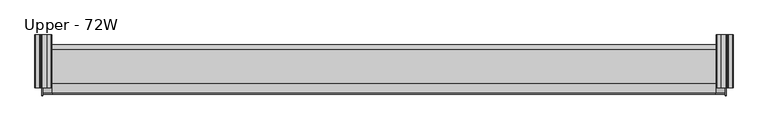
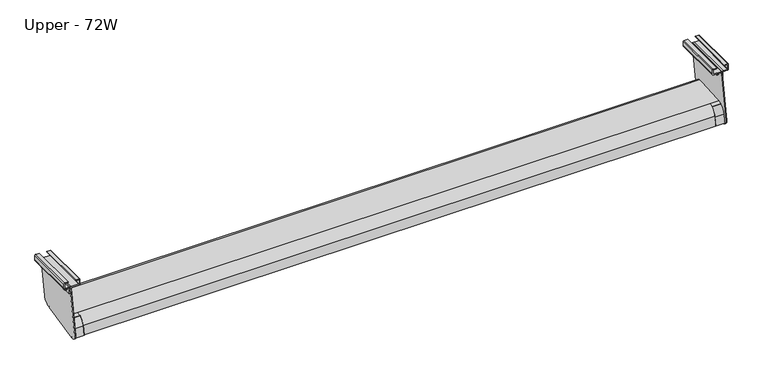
"""IFC4 building model written with IfcOpenShell, lengths in millimetres: furniture geometry, Steelcase Turnstone - Bivi - Accessories - Footshelf : Upper - 72W."""

from ifc_helpers import new_model, si_unit, point, frame, frame_2d, origin, place, context, project, spatial, polyline, circle_curve, trimmed, segment, composite_curve, outline, extrude, source, transform, mapped, element, save
from ifc_brep_helpers import plane_surface, cylinder_surface, revolved_surface, advanced_brep


def upper_72w_3a9c6955(model_context):
    return source(origin(), model_context, "Body", "SolidModel", [
        advanced_brep(
        [(1803.3970434, -330.5631686, 405.2178221), (1803.3970434, -335.2717608, 378.5140687), (1803.3970434, -331.5529865, 377.9250727), (1803.3970434, -327.344341, 401.7934874), (1803.3970434, -313.6889042, 420.7007017), (1803.3970434, -315.8474061, 424.9938126), (25.4029566, -327.344341, 401.7934874), (25.4029566, -331.5529865, 377.9250727), (25.4029566, -335.2717608, 378.5140687), (25.4029566, -330.5631686, 405.2178221), (25.4029566, -315.8474061, 424.9938126), (25.4029566, -313.6889042, 420.7007017), (1828.8, -205.119935, 404.6518997), (1828.8, -209.1468112, 405.0751414), (0.0, -209.1468112, 405.0751414), (0.0, -205.119935, 404.6518997), (25.4029566, -203.2275084, 422.6571359), (1803.3970434, -203.2275084, 422.6571359), (1828.8, -203.2275084, 422.6571359), (0.0, -203.2275084, 422.6571359), (25.4029566, -213.9683536, 433.8305657), (1803.3970434, -213.9683536, 433.8305657), (0.0, -213.9683536, 433.8305657), (0.0, -305.2969526, 427.8633459), (25.4029566, -305.2969526, 427.8633459), (1803.3970434, -305.2969526, 427.8633459), (1828.8, -305.2969526, 427.8633459), (1828.8, -213.9683536, 433.8305657), (25.4029566, -302.7385546, 423.8470835), (1803.3970434, -302.7385546, 423.8470835), (0.0, -302.7385546, 423.8470835), (0.0, -215.2869038, 429.5609916), (25.4029566, -215.2869038, 429.5609916), (1803.3970434, -215.2869038, 429.5609916), (1828.8, -215.2869038, 429.5609916), (1828.8, -302.7385546, 423.8470835), (25.4029566, -207.4320707, 421.3898072), (1803.3970434, -207.4320707, 421.3898072), (0.0, -207.4320707, 421.3898072), (1828.8, -207.4320707, 421.3898072), (1828.8, -315.8474061, 424.9938126), (1828.8, -313.6889042, 420.7007017), (0.0, -313.6889042, 420.7007017), (0.0, -315.8474061, 424.9938126)],
        [
            (0, 1),
            (1, 2),
            (2, 3),
            (3, 4, circle_curve(frame((1803.3970434, -300.9940412, 397.1472186), z_axis=(-1.0, 0.0, 0.0), x_axis=(0.0, 1.0, 0.0)), 26.7567957)),
            (4, 5),
            (5, 0, circle_curve(frame((1803.3970434, -303.5056158, 400.4468455), z_axis=(1.0, 0.0, 0.0), x_axis=(0.0, 1.0, 0.0)), 27.4749592)),
            (6, 7),
            (7, 8),
            (8, 9),
            (9, 10, circle_curve(frame((25.4029566, -303.5056158, 400.4468455), z_axis=(-1.0, 0.0, 0.0), x_axis=(0.0, 1.0, 0.0)), 27.4749592)),
            (10, 11),
            (11, 6, circle_curve(frame((25.4029566, -300.9940412, 397.1472186), z_axis=(1.0, 0.0, 0.0), x_axis=(0.0, 1.0, 0.0)), 26.7567957)),
            (12, 13),
            (13, 14),
            (14, 15),
            (15, 12),
            (16, 17),
            (17, 18),
            (18, 12),
            (15, 19),
            (19, 16),
            (16, 20, circle_curve(frame((25.4029566, -213.3075275, 423.7165886), z_axis=(1.0, 0.0, 0.0), x_axis=(0.0, 1.0, 0.0)), 10.1355426)),
            (20, 21),
            (21, 17, circle_curve(frame((1803.3970434, -213.3075275, 423.7165886), z_axis=(-1.0, 0.0, 0.0), x_axis=(0.0, 1.0, 0.0)), 10.1355426)),
            (20, 22),
            (22, 23),
            (23, 24),
            (24, 25),
            (25, 26),
            (26, 27),
            (27, 21),
            (24, 10, circle_curve(frame((25.4029566, -303.5056158, 400.4468455), z_axis=(1.0, 0.0, 0.0), x_axis=(0.0, 1.0, 0.0)), 27.4749592)),
            (9, 0),
            (5, 25, circle_curve(frame((1803.3970434, -303.5056158, 400.4468455), z_axis=(-1.0, 0.0, 0.0), x_axis=(0.0, 1.0, 0.0)), 27.4749592)),
            (8, 1),
            (7, 2),
            (6, 3),
            (11, 28, circle_curve(frame((25.4029566, -300.9940412, 397.1472186), z_axis=(-1.0, 0.0, 0.0), x_axis=(0.0, 1.0, 0.0)), 26.7567957)),
            (28, 29),
            (29, 4, circle_curve(frame((1803.3970434, -300.9940412, 397.1472186), z_axis=(1.0, 0.0, 0.0), x_axis=(0.0, 1.0, 0.0)), 26.7567957)),
            (28, 30),
            (30, 31),
            (31, 32),
            (32, 33),
            (33, 34),
            (34, 35),
            (35, 29),
            (32, 36, circle_curve(frame((25.4029566, -214.8036384, 422.1645902), z_axis=(-1.0, 0.0, 0.0), x_axis=(0.0, 1.0, 0.0)), 7.4121724)),
            (36, 37),
            (37, 33, circle_curve(frame((1803.3970434, -214.8036384, 422.1645902), z_axis=(1.0, 0.0, 0.0), x_axis=(0.0, 1.0, 0.0)), 7.4121724)),
            (36, 38),
            (38, 14),
            (13, 39),
            (39, 37),
            (18, 27, circle_curve(frame((1828.8, -213.3075275, 423.7165886), z_axis=(1.0, 0.0, 0.0), x_axis=(0.0, 1.0, 0.0)), 10.1355426)),
            (26, 40, circle_curve(frame((1828.8, -303.5056158, 400.4468455), z_axis=(1.0, 0.0, 0.0), x_axis=(0.0, 1.0, 0.0)), 27.4749592)),
            (40, 41),
            (41, 35, circle_curve(frame((1828.8, -300.9940412, 397.1472186), z_axis=(-1.0, 0.0, 0.0), x_axis=(0.0, 1.0, 0.0)), 26.7567957)),
            (34, 39, circle_curve(frame((1828.8, -214.8036384, 422.1645902), z_axis=(-1.0, 0.0, 0.0), x_axis=(0.0, 1.0, 0.0)), 7.4121724)),
            (5, 40),
            (41, 4),
            (38, 31, circle_curve(frame((0.0, -214.8036384, 422.1645902), z_axis=(1.0, 0.0, 0.0), x_axis=(0.0, 1.0, 0.0)), 7.4121724)),
            (30, 42, circle_curve(frame((0.0, -300.9940412, 397.1472186), z_axis=(1.0, 0.0, 0.0), x_axis=(0.0, 1.0, 0.0)), 26.7567957)),
            (42, 43),
            (43, 23, circle_curve(frame((0.0, -303.5056158, 400.4468455), z_axis=(-1.0, 0.0, 0.0), x_axis=(0.0, 1.0, 0.0)), 27.4749592)),
            (22, 19, circle_curve(frame((0.0, -213.3075275, 423.7165886), z_axis=(-1.0, 0.0, 0.0), x_axis=(0.0, 1.0, 0.0)), 10.1355426)),
            (43, 10),
            (11, 42),
        ],
        [
            plane_surface(frame((1803.3970434, -205.119935, 404.6518997), z_axis=(1.0, 0.0, 0.0), x_axis=(0.0, 0.9945218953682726, -0.10452846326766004))),
            plane_surface(frame((25.4029566, -205.119935, 404.6518997), z_axis=(-1.0, 0.0, 0.0), x_axis=(0.0, -0.9945218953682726, 0.10452846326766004))),
            plane_surface(frame((1803.3970434, -209.1468112, 405.0751414), z_axis=(0.0, -0.10452846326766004, -0.9945218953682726), x_axis=(-1.0, 0.0, 0.0))),
            plane_surface(frame((1803.3970434, -205.119935, 404.6518997), z_axis=(0.0, 0.9945218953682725, -0.10452846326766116), x_axis=(-1.0, 0.0, 0.0))),
            cylinder_surface(frame((25.4029566, -213.3075275, 423.7165886), z_axis=(1.0, 0.0, 0.0), x_axis=(0.0, 1.0, 0.0)), 10.1355426),
            plane_surface(frame((1803.3970434, -213.9683536, 433.8305657), z_axis=(0.0, -0.06519889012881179, 0.9978722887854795), x_axis=(-1.0, 0.0, 0.0))),
            cylinder_surface(frame((25.4029566, -303.5056158, 400.4468455), z_axis=(1.0, 0.0, 0.0), x_axis=(0.0, 1.0, 0.0)), 27.4749592),
            plane_surface(frame((1803.3970434, -330.5631686, 405.2178221), z_axis=(0.0, -0.9848077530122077, 0.17364817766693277), x_axis=(-1.0, 0.0, 0.0))),
            plane_surface(frame((1803.3970434, -335.2717608, 378.5140687), z_axis=(0.0, -0.15643446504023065, -0.9876883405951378), x_axis=(-1.0, 0.0, 0.0))),
            plane_surface(frame((1803.3970434, -331.5529865, 377.9250727), z_axis=(0.0, 0.9848077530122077, -0.17364817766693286), x_axis=(-1.0, 0.0, 0.0))),
            revolved_surface(polyline([(25.4029566, -274.23724550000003, 397.1472186), (1803.3970434, -274.23724550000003, 397.1472186)]), (25.4029566, -300.9940412, 397.1472186), (-1.0, 0.0, 0.0)),
            plane_surface(frame((1803.3970434, -302.7385546, 423.8470835), z_axis=(0.0, 0.06519889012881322, -0.9978722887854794), x_axis=(-1.0, 0.0, 0.0))),
            revolved_surface(polyline([(25.4029566, -207.391466, 422.1645902), (1803.3970434, -207.391466, 422.1645902)]), (25.4029566, -214.8036384, 422.1645902), (-1.0, 0.0, 0.0)),
            plane_surface(frame((1803.3970434, -207.4320707, 421.3898072), z_axis=(0.0, -0.9945218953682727, 0.10452846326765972), x_axis=(-1.0, 0.0, 0.0))),
            plane_surface(frame((1828.8, -209.1468112, 405.0751414), z_axis=(1.0, 0.0, 0.0), x_axis=(0.0, -0.10452846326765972, -0.9945218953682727))),
            cylinder_surface(frame((1828.8, -213.3075275, 423.7165886), z_axis=(-1.0, 0.0, 0.0), x_axis=(0.0, 1.0, 0.0)), 10.1355426),
            cylinder_surface(frame((1828.8, -303.5056158, 400.4468455), z_axis=(-1.0, 0.0, 0.0), x_axis=(0.0, 1.0, 0.0)), 27.4749592),
            revolved_surface(polyline([(1828.8, -274.23724550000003, 397.1472186), (1803.3970434, -274.23724550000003, 397.1472186)]), (1828.8, -300.9940412, 397.1472186), (1.0, 0.0, 0.0)),
            revolved_surface(polyline([(1828.8, -207.391466, 422.1645902), (1803.3970434, -207.391466, 422.1645902)]), (1828.8, -214.8036384, 422.1645902), (1.0, 0.0, 0.0)),
            plane_surface(frame((1803.3970434, -313.6889042, 420.7007017), z_axis=(0.0, -0.8934305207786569, -0.44920140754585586), x_axis=(1.0, 0.0, 0.0))),
            plane_surface(frame((0.0, -205.119935, 404.6518997), z_axis=(-1.0, 0.0, 0.0), x_axis=(0.0, -0.9945218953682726, 0.10452846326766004))),
            cylinder_surface(frame((0.0, -213.3075275, 423.7165886), z_axis=(1.0, 0.0, 0.0), x_axis=(0.0, 1.0, 0.0)), 10.1355426),
            cylinder_surface(frame((0.0, -303.5056158, 400.4468455), z_axis=(1.0, 0.0, 0.0), x_axis=(0.0, 1.0, 0.0)), 27.4749592),
            revolved_surface(polyline([(0.0, -274.23724550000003, 397.1472186), (25.4029566, -274.23724550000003, 397.1472186)]), (0.0, -300.9940412, 397.1472186), (-1.0, 0.0, 0.0)),
            revolved_surface(polyline([(0.0, -207.391466, 422.1645902), (25.4029566, -207.391466, 422.1645902)]), (0.0, -214.8036384, 422.1645902), (-1.0, 0.0, 0.0)),
            plane_surface(frame((25.4029566, -315.8474061, 424.9938126), z_axis=(0.0, -0.8934305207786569, -0.44920140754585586), x_axis=(-1.0, 0.0, 0.0))),
        ],
        [
            (0, [[1, 2, 3, 4, 5, 6]]),
            (1, [[7, 8, 9, 10, 11, 12]]),
            (2, [[13, 14, 15, 16]]),
            (3, [[17, 18, 19, -16, 20, 21]]),
            (4, [[-17, 22, 23, 24]]),
            (5, [[-23, 25, 26, 27, 28, 29, 30, 31]]),
            (6, [[-28, 32, -10, 33, -6, 34]]),
            (7, [[-1, -33, -9, 35]]),
            (8, [[-2, -35, -8, 36]]),
            (9, [[-3, -36, -7, 37]]),
            (10, [[-37, -12, 38, 39, 40, -4]]),
            (11, [[-39, 41, 42, 43, 44, 45, 46, 47]]),
            (12, [[-44, 48, 49, 50]]),
            (13, [[-49, 51, 52, -14, 53, 54]]),
            (14, [[-13, -19, 55, -30, 56, 57, 58, -46, 59, -53]]),
            (15, [[-55, -18, -24, -31]]),
            (16, [[-56, -29, -34, 60]]),
            (17, [[-58, 61, -40, -47]]),
            (18, [[-59, -45, -50, -54]]),
            (19, [[-57, -60, -5, -61]]),
            (20, [[-52, 62, -42, 63, 64, 65, -26, 66, -20, -15]]),
            (21, [[-66, -25, -22, -21]]),
            (22, [[-65, 67, -32, -27]]),
            (23, [[-63, -41, -38, 68]]),
            (24, [[-62, -51, -48, -43]]),
            (25, [[-64, -68, -11, -67]]),
        ],
    ),
        advanced_brep(
        [(1834.2732124, -301.9506853, 510.0029956), (1834.2732124, -301.9506853, 515.6450881), (1834.2732124, -301.9506853, 504.3609031), (1837.6407408, -301.9506853, 515.6450881), (1837.6407408, -301.9506853, 504.3609031), (1837.6407408, -301.9506853, 513.3891575), (1837.6407408, -301.9506853, 506.6168337), (1840.6872105, -301.9506853, 513.3891575), (1840.6872105, -301.9506853, 506.6168337), (1840.6872105, -301.9506853, 510.0029956)],
        [
            (0, 1),
            (1, 2, circle_curve(frame((1834.2732124, -301.9506853, 510.0029956), z_axis=(-1.0, 0.0, 0.0), x_axis=(0.0, 0.0, 1.0)), 5.6420925)),
            (2, 0),
            (2, 1, circle_curve(frame((1834.2732124, -301.9506853, 510.0029956), z_axis=(-1.0, 0.0, 0.0), x_axis=(0.0, 0.0, 1.0)), 5.6420925)),
            (1, 3),
            (3, 4, circle_curve(frame((1837.6407408, -301.9506853, 510.0029956), z_axis=(-1.0, 0.0, 0.0), x_axis=(0.0, 0.0, 1.0)), 5.6420925)),
            (4, 2),
            (4, 3, circle_curve(frame((1837.6407408, -301.9506853, 510.0029956), z_axis=(-1.0, 0.0, 0.0), x_axis=(0.0, 0.0, 1.0)), 5.6420925)),
            (3, 5),
            (5, 6, circle_curve(frame((1837.6407408, -301.9506853, 510.0029956), z_axis=(-1.0, 0.0, 0.0), x_axis=(0.0, 0.0, 1.0)), 3.3861619)),
            (6, 4),
            (6, 5, circle_curve(frame((1837.6407408, -301.9506853, 510.0029956), z_axis=(-1.0, 0.0, 0.0), x_axis=(0.0, 0.0, 1.0)), 3.3861619)),
            (5, 7),
            (7, 8, circle_curve(frame((1840.6872105, -301.9506853, 510.0029956), z_axis=(-1.0, 0.0, 0.0), x_axis=(0.0, 0.0, 1.0)), 3.3861619)),
            (8, 6),
            (8, 7, circle_curve(frame((1840.6872105, -301.9506853, 510.0029956), z_axis=(-1.0, 0.0, 0.0), x_axis=(0.0, 0.0, 1.0)), 3.3861619)),
            (7, 9),
            (9, 8),
        ],
        [
            plane_surface(frame((1834.2732124, -301.9506853, 510.0029956), z_axis=(-1.0, 0.0, 0.0), x_axis=(0.0, 0.0, 1.0))),
            cylinder_surface(frame((1837.4802114, -301.9506853, 510.0029956), z_axis=(-1.0, 0.0, 0.0), x_axis=(0.0, 0.0, 1.0)), 5.6420925),
            plane_surface(frame((1837.6407408, -301.9506853, 510.0029956), z_axis=(1.0, 0.0, 0.0), x_axis=(0.0, 0.0, 1.0))),
            cylinder_surface(frame((1837.4802114, -301.9506853, 510.0029956), z_axis=(-1.0, 0.0, 0.0), x_axis=(0.0, 0.0, 1.0)), 3.3861619),
            plane_surface(frame((1840.6872105, -301.9506853, 510.0029956), z_axis=(1.0, 0.0, 0.0), x_axis=(0.0, 0.0, 1.0))),
        ],
        [
            (0, [[1, 2, 3]]),
            (0, [[-3, 4, -1]]),
            (1, [[-2, 5, 6, 7]]),
            (1, [[-4, -7, 8, -5]]),
            (2, [[-6, 9, 10, 11]]),
            (2, [[-8, -11, 12, -9]]),
            (3, [[-10, 13, 14, 15]]),
            (3, [[-12, -15, 16, -13]]),
            (4, [[-14, 17, 18]]),
            (4, [[-16, -18, -17]]),
        ],
    ),
        advanced_brep(
        [(1821.6372105, -301.9506853, 506.6168337), (1821.6372105, -301.9506853, 513.3891575), (1824.482967, -301.9506853, 513.3891575), (1824.482967, -301.9506853, 506.6168337), (1824.482967, -301.9506853, 515.6450881), (1824.482967, -301.9506853, 504.3609031), (1828.8, -301.9506853, 515.6450881), (1828.8, -301.9506853, 504.3609031), (1828.8, -301.9506853, 510.0029956), (1821.6372105, -301.9506853, 510.0029956)],
        [
            (0, 1, circle_curve(frame((1821.6372105, -301.9506853, 510.0029956), z_axis=(1.0, 0.0, 0.0), x_axis=(0.0, 0.0, 1.0)), 3.3861619)),
            (1, 2),
            (2, 3, circle_curve(frame((1824.482967, -301.9506853, 510.0029956), z_axis=(-1.0, 0.0, 0.0), x_axis=(0.0, 0.0, 1.0)), 3.3861619)),
            (3, 0),
            (1, 0, circle_curve(frame((1821.6372105, -301.9506853, 510.0029956), z_axis=(1.0, 0.0, 0.0), x_axis=(0.0, 0.0, 1.0)), 3.3861619)),
            (3, 2, circle_curve(frame((1824.482967, -301.9506853, 510.0029956), z_axis=(-1.0, 0.0, 0.0), x_axis=(0.0, 0.0, 1.0)), 3.3861619)),
            (2, 4),
            (4, 5, circle_curve(frame((1824.482967, -301.9506853, 510.0029956), z_axis=(-1.0, 0.0, 0.0), x_axis=(0.0, 0.0, 1.0)), 5.6420925)),
            (5, 3),
            (5, 4, circle_curve(frame((1824.482967, -301.9506853, 510.0029956), z_axis=(-1.0, 0.0, 0.0), x_axis=(0.0, 0.0, 1.0)), 5.6420925)),
            (4, 6),
            (6, 7, circle_curve(frame((1828.8, -301.9506853, 510.0029956), z_axis=(-1.0, 0.0, 0.0), x_axis=(0.0, 0.0, 1.0)), 5.6420925)),
            (7, 5),
            (7, 6, circle_curve(frame((1828.8, -301.9506853, 510.0029956), z_axis=(-1.0, 0.0, 0.0), x_axis=(0.0, 0.0, 1.0)), 5.6420925)),
            (6, 8),
            (8, 7),
            (9, 1),
            (0, 9),
        ],
        [
            cylinder_surface(frame((1837.4802114, -301.9506853, 510.0029956), z_axis=(-1.0, 0.0, 0.0), x_axis=(0.0, 0.0, 1.0)), 3.3861619),
            plane_surface(frame((1824.482967, -301.9506853, 510.0029956), z_axis=(-1.0, 0.0, 0.0), x_axis=(0.0, 0.0, 1.0))),
            cylinder_surface(frame((1837.4802114, -301.9506853, 510.0029956), z_axis=(-1.0, 0.0, 0.0), x_axis=(0.0, 0.0, 1.0)), 5.6420925),
            plane_surface(frame((1828.8, -301.9506853, 510.0029956), z_axis=(1.0, 0.0, 0.0), x_axis=(0.0, 0.0, 1.0))),
            plane_surface(frame((1821.6372105, -301.9506853, 510.0029956), z_axis=(-1.0, 0.0, 0.0), x_axis=(0.0, 0.0, 1.0))),
        ],
        [
            (0, [[1, 2, 3, 4]]),
            (0, [[5, -4, 6, -2]]),
            (1, [[-3, 7, 8, 9]]),
            (1, [[-6, -9, 10, -7]]),
            (2, [[-8, 11, 12, 13]]),
            (2, [[-10, -13, 14, -11]]),
            (3, [[-12, 15, 16]]),
            (3, [[-14, -16, -15]]),
            (4, [[17, -1, 18]]),
            (4, [[-18, -5, -17]]),
        ],
    ),
        advanced_brep(
        [(1834.2732124, -191.690625, 510.0029956), (1834.2732124, -191.690625, 515.6450881), (1834.2732124, -191.690625, 504.3609031), (1837.6407408, -191.690625, 515.6450881), (1837.6407408, -191.690625, 504.3609031), (1837.6407408, -191.690625, 513.3891575), (1837.6407408, -191.690625, 506.6168337), (1840.6872105, -191.690625, 513.3891575), (1840.6872105, -191.690625, 506.6168337), (1840.6872105, -191.690625, 510.0029956)],
        [
            (0, 1),
            (1, 2, circle_curve(frame((1834.2732124, -191.690625, 510.0029956), z_axis=(-1.0, 0.0, 0.0), x_axis=(0.0, 0.0, 1.0)), 5.6420925)),
            (2, 0),
            (2, 1, circle_curve(frame((1834.2732124, -191.690625, 510.0029956), z_axis=(-1.0, 0.0, 0.0), x_axis=(0.0, 0.0, 1.0)), 5.6420925)),
            (1, 3),
            (3, 4, circle_curve(frame((1837.6407408, -191.690625, 510.0029956), z_axis=(-1.0, 0.0, 0.0), x_axis=(0.0, 0.0, 1.0)), 5.6420925)),
            (4, 2),
            (4, 3, circle_curve(frame((1837.6407408, -191.690625, 510.0029956), z_axis=(-1.0, 0.0, 0.0), x_axis=(0.0, 0.0, 1.0)), 5.6420925)),
            (3, 5),
            (5, 6, circle_curve(frame((1837.6407408, -191.690625, 510.0029956), z_axis=(-1.0, 0.0, 0.0), x_axis=(0.0, 0.0, 1.0)), 3.3861619)),
            (6, 4),
            (6, 5, circle_curve(frame((1837.6407408, -191.690625, 510.0029956), z_axis=(-1.0, 0.0, 0.0), x_axis=(0.0, 0.0, 1.0)), 3.3861619)),
            (5, 7),
            (7, 8, circle_curve(frame((1840.6872105, -191.690625, 510.0029956), z_axis=(-1.0, 0.0, 0.0), x_axis=(0.0, 0.0, 1.0)), 3.3861619)),
            (8, 6),
            (8, 7, circle_curve(frame((1840.6872105, -191.690625, 510.0029956), z_axis=(-1.0, 0.0, 0.0), x_axis=(0.0, 0.0, 1.0)), 3.3861619)),
            (7, 9),
            (9, 8),
        ],
        [
            plane_surface(frame((1834.2732124, -191.690625, 510.0029956), z_axis=(-1.0, 0.0, 0.0), x_axis=(0.0, 0.0, 1.0))),
            cylinder_surface(frame((1837.4802114, -191.690625, 510.0029956), z_axis=(-1.0, 0.0, 0.0), x_axis=(0.0, 0.0, 1.0)), 5.6420925),
            plane_surface(frame((1837.6407408, -191.690625, 510.0029956), z_axis=(1.0, 0.0, 0.0), x_axis=(0.0, 0.0, 1.0))),
            cylinder_surface(frame((1837.4802114, -191.690625, 510.0029956), z_axis=(-1.0, 0.0, 0.0), x_axis=(0.0, 0.0, 1.0)), 3.3861619),
            plane_surface(frame((1840.6872105, -191.690625, 510.0029956), z_axis=(1.0, 0.0, 0.0), x_axis=(0.0, 0.0, 1.0))),
        ],
        [
            (0, [[1, 2, 3]]),
            (0, [[-3, 4, -1]]),
            (1, [[-2, 5, 6, 7]]),
            (1, [[-4, -7, 8, -5]]),
            (2, [[-6, 9, 10, 11]]),
            (2, [[-8, -11, 12, -9]]),
            (3, [[-10, 13, 14, 15]]),
            (3, [[-12, -15, 16, -13]]),
            (4, [[-14, 17, 18]]),
            (4, [[-16, -18, -17]]),
        ],
    ),
        advanced_brep(
        [(1821.6372105, -191.690625, 506.6168337), (1821.6372105, -191.690625, 513.3891575), (1824.482967, -191.690625, 513.3891575), (1824.482967, -191.690625, 506.6168337), (1824.482967, -191.690625, 515.6450881), (1824.482967, -191.690625, 504.3609031), (1828.8, -191.690625, 515.6450881), (1828.8, -191.690625, 504.3609031), (1828.8, -191.690625, 510.0029956), (1821.6372105, -191.690625, 510.0029956)],
        [
            (0, 1, circle_curve(frame((1821.6372105, -191.690625, 510.0029956), z_axis=(1.0, 0.0, 0.0), x_axis=(0.0, 0.0, 1.0)), 3.3861619)),
            (1, 2),
            (2, 3, circle_curve(frame((1824.482967, -191.690625, 510.0029956), z_axis=(-1.0, 0.0, 0.0), x_axis=(0.0, 0.0, 1.0)), 3.3861619)),
            (3, 0),
            (1, 0, circle_curve(frame((1821.6372105, -191.690625, 510.0029956), z_axis=(1.0, 0.0, 0.0), x_axis=(0.0, 0.0, 1.0)), 3.3861619)),
            (3, 2, circle_curve(frame((1824.482967, -191.690625, 510.0029956), z_axis=(-1.0, 0.0, 0.0), x_axis=(0.0, 0.0, 1.0)), 3.3861619)),
            (2, 4),
            (4, 5, circle_curve(frame((1824.482967, -191.690625, 510.0029956), z_axis=(-1.0, 0.0, 0.0), x_axis=(0.0, 0.0, 1.0)), 5.6420925)),
            (5, 3),
            (5, 4, circle_curve(frame((1824.482967, -191.690625, 510.0029956), z_axis=(-1.0, 0.0, 0.0), x_axis=(0.0, 0.0, 1.0)), 5.6420925)),
            (4, 6),
            (6, 7, circle_curve(frame((1828.8, -191.690625, 510.0029956), z_axis=(-1.0, 0.0, 0.0), x_axis=(0.0, 0.0, 1.0)), 5.6420925)),
            (7, 5),
            (7, 6, circle_curve(frame((1828.8, -191.690625, 510.0029956), z_axis=(-1.0, 0.0, 0.0), x_axis=(0.0, 0.0, 1.0)), 5.6420925)),
            (6, 8),
            (8, 7),
            (9, 1),
            (0, 9),
        ],
        [
            cylinder_surface(frame((1837.4802114, -191.690625, 510.0029956), z_axis=(-1.0, 0.0, 0.0), x_axis=(0.0, 0.0, 1.0)), 3.3861619),
            plane_surface(frame((1824.482967, -191.690625, 510.0029956), z_axis=(-1.0, 0.0, 0.0), x_axis=(0.0, 0.0, 1.0))),
            cylinder_surface(frame((1837.4802114, -191.690625, 510.0029956), z_axis=(-1.0, 0.0, 0.0), x_axis=(0.0, 0.0, 1.0)), 5.6420925),
            plane_surface(frame((1828.8, -191.690625, 510.0029956), z_axis=(1.0, 0.0, 0.0), x_axis=(0.0, 0.0, 1.0))),
            plane_surface(frame((1821.6372105, -191.690625, 510.0029956), z_axis=(-1.0, 0.0, 0.0), x_axis=(0.0, 0.0, 1.0))),
        ],
        [
            (0, [[1, 2, 3, 4]]),
            (0, [[5, -4, 6, -2]]),
            (1, [[-3, 7, 8, 9]]),
            (1, [[-6, -9, 10, -7]]),
            (2, [[-8, 11, 12, 13]]),
            (2, [[-10, -13, 14, -11]]),
            (3, [[-12, 15, 16]]),
            (3, [[-14, -16, -15]]),
            (4, [[17, -1, 18]]),
            (4, [[-18, -5, -17]]),
        ],
    ),
        extrude(outline(composite_curve([segment(trimmed(circle_curve(frame_2d((533.265026, 1806.8265851)), 2.523055), [point((535.788081, 1806.8265851))], [point((533.265026, 1804.3035301))], False, "CARTESIAN"), True, "CONTINUOUS"), segment(polyline([(533.265026, 1804.3035301), (521.4761406, 1804.3035301)]), True, "CONTINUOUS"), segment(trimmed(circle_curve(frame_2d((521.4761406, 1806.9914802)), 2.6879501), [point((521.4761406, 1804.3035301))], [point((518.7881906, 1806.9914802))], False, "CARTESIAN"), True, "CONTINUOUS"), segment(polyline([(518.7881906, 1806.9914802), (518.7881906, 1828.0999972)]), True, "CONTINUOUS"), segment(trimmed(circle_curve(frame_2d((518.0881878, 1828.0999972)), 0.7000028), [point((518.7881906, 1828.0999972))], [point((518.0881878, 1828.8))], True, "CARTESIAN"), True, "CONTINUOUS"), segment(polyline([(518.0881878, 1828.8), (515.0719399, 1828.8), (515.0719399, 1831.8464697), (518.7454283, 1831.8464697)]), True, "CONTINUOUS"), segment(trimmed(circle_curve(frame_2d((518.7454283, 1829.5238852)), 2.3225846), [point((518.7454283, 1831.8464697))], [point((521.0680129, 1829.5238852))], False, "CARTESIAN"), True, "CONTINUOUS"), segment(polyline([(521.0680129, 1829.5238852), (521.0680129, 1807.1692892)]), True, "CONTINUOUS"), segment(trimmed(circle_curve(frame_2d((521.6545506, 1807.1692892)), 0.5865377), [point((521.0680129, 1807.1692892))], [point((521.6545506, 1806.5827515))], True, "CARTESIAN"), True, "CONTINUOUS"), segment(polyline([(521.6545506, 1806.5827515), (532.9425114, 1806.5827515)]), True, "CONTINUOUS"), segment(trimmed(circle_curve(frame_2d((532.9425114, 1807.1482277)), 0.5654762), [point((532.9425114, 1806.5827515))], [point((533.5079876, 1807.1482277))], True, "CARTESIAN"), True, "CONTINUOUS"), segment(polyline([(533.5079876, 1807.1482277), (533.5079876, 1816.302507), (535.788081, 1816.302507), (535.788081, 1806.8265851)]), True, "CONTINUOUS")], self_intersect=False)), frame((0.0, -317.2132069, 0.0), z_axis=(0.0, 1.0, 0.0), x_axis=(0.0, 0.0, 1.0)), (0.0, 0.0, 1.0), 141.0013584),
        extrude(outline(composite_curve([segment(polyline([(501.0778087, 1834.2732124), (518.4068629, 1834.2732124)]), True, "CONTINUOUS"), segment(trimmed(circle_curve(frame_2d((518.4068629, 1835.0339697)), 0.7607573), [point((518.4068629, 1834.2732124))], [point((519.1676202, 1835.0339697))], True, "CARTESIAN"), True, "CONTINUOUS"), segment(polyline([(519.1676202, 1835.0339697), (519.1676202, 1846.8089232)]), True, "CONTINUOUS"), segment(trimmed(circle_curve(frame_2d((522.1157014, 1846.8089232)), 2.9480812), [point((519.1676202, 1846.8089232))], [point((522.1157014, 1849.7570044))], False, "CARTESIAN"), True, "CONTINUOUS"), segment(polyline([(522.1157014, 1849.7570044), (535.0550756, 1849.7570044)]), True, "CONTINUOUS"), segment(trimmed(circle_curve(frame_2d((535.0550756, 1847.1402478)), 2.6167566), [point((535.0550756, 1849.7570044))], [point((537.6718323, 1847.1402478))], False, "CARTESIAN"), True, "CONTINUOUS"), segment(polyline([(537.6718323, 1847.1402478), (537.6718323, 1837.7100653), (535.7577049, 1837.7100653), (535.7577049, 1847.1442428)]), True, "CONTINUOUS"), segment(trimmed(circle_curve(frame_2d((535.0548558, 1847.1442428)), 0.7028491), [point((535.7577049, 1847.1442428))], [point((535.0548558, 1847.8470919))], True, "CARTESIAN"), True, "CONTINUOUS"), segment(polyline([(535.0548558, 1847.8470919), (521.8638245, 1847.8470919)]), True, "CONTINUOUS"), segment(trimmed(circle_curve(frame_2d((521.8638245, 1847.0511713)), 0.7959206), [point((521.8638245, 1847.8470919))], [point((521.0679039, 1847.0511713))], True, "CARTESIAN"), True, "CONTINUOUS"), segment(polyline([(521.0679039, 1847.0511713), (521.0679039, 1834.6562852)]), True, "CONTINUOUS"), segment(trimmed(circle_curve(frame_2d((518.7731745, 1834.6562852)), 2.2947294), [point((521.0679039, 1834.6562852))], [point((518.7731745, 1832.3615559))], False, "CARTESIAN"), True, "CONTINUOUS"), segment(polyline([(518.7731745, 1832.3615559), (501.0778087, 1832.3615559), (501.0778087, 1834.2732124)]), True, "CONTINUOUS")], self_intersect=False)), frame((0.0, -317.2132069, 0.0), z_axis=(0.0, 1.0, 0.0), x_axis=(0.0, 0.0, 1.0)), (0.0, 0.0, 1.0), 141.0013584),
        extrude(outline(composite_curve([segment(polyline([(-332.8870202, 377.9585379), (-335.4134875, 378.4040222), (-331.061012, 403.0881373)]), True, "CONTINUOUS"), segment(trimmed(circle_curve(frame_2d((-302.0885172, 397.9795048)), 29.4194423), [point((-331.061012, 403.0881373))], [point((-316.4419518, 423.6598961))], False, "CARTESIAN"), True, "CONTINUOUS"), segment(polyline([(-316.4419518, 423.6598961), (-315.4242191, 421.635696)]), True, "CONTINUOUS"), segment(trimmed(circle_curve(frame_2d((-303.1510302, 399.1681269)), 25.601227), [point((-315.4242191, 421.635696))], [point((-328.3633171, 403.6137333))], True, "CARTESIAN"), True, "CONTINUOUS"), segment(polyline([(-328.3633171, 403.6137333), (-332.8870202, 377.9585379)]), True, "CONTINUOUS")], self_intersect=False)), frame((1803.3970434, 0.0, 0.0), z_axis=(1.0, 0.0, 0.0), x_axis=(0.0, 1.0, 0.0)), (0.0, 0.0, 1.0), 25.4029566),
        extrude(outline(polyline([(-303.3054343, 421.3984403), (-303.3054343, 423.8059931), (-214.6009362, 429.6985325), (-214.6009362, 427.2909798), (-303.3054343, 421.3984403)])), frame((1803.3970434, 0.0, 0.0), z_axis=(1.0, 0.0, 0.0), x_axis=(0.0, 1.0, 0.0)), (0.0, 0.0, 1.0), 25.4029566),
        extrude(outline(composite_curve([segment(polyline([(-214.2035703, 427.3173763), (-216.6878663, 400.722597), (-325.7409976, 376.5767837), (-332.8285151, 378.2903368), (-328.3633171, 403.6137333), (-321.5882945, 402.7837592)]), True, "CONTINUOUS"), segment(trimmed(circle_curve(frame_2d((-319.9743829, 415.9580098)), 13.2727386), [point((-321.5882945, 402.7837592))], [point((-309.2742208, 408.1048499))], True, "CARTESIAN"), True, "CONTINUOUS"), segment(trimmed(circle_curve(frame_2d((-337.3047231, 428.6772501)), 34.7697097), [point((-309.2742208, 408.1048499))], [point((-303.2021583, 421.8987706))], True, "CARTESIAN"), True, "CONTINUOUS"), segment(polyline([(-303.2021583, 421.8987706), (-303.2021583, 423.8127456), (-214.3542538, 429.621972), (-214.2035703, 427.3173763)]), True, "CONTINUOUS")], self_intersect=False)), frame((1824.9910742, 0.0, 0.0), z_axis=(1.0, 0.0, 0.0), x_axis=(0.0, 1.0, 0.0)), (0.0, 0.0, 1.0), 3.8089258),
        extrude(outline(composite_curve([segment(polyline([(-339.6051595, 388.0962158), (-317.2229753, 515.0719399), (-176.2212331, 515.0719399), (-193.1137238, 419.4135346)]), True, "CONTINUOUS"), segment(trimmed(circle_curve(frame_2d((-217.5321339, 423.7256258)), 24.7962272), [point((-193.1137238, 419.4135346))], [point((-214.3362657, 399.1362113))], False, "CARTESIAN"), True, "CONTINUOUS"), segment(polyline([(-214.3362657, 399.1362113), (-215.7114724, 400.9390809), (-216.6878663, 400.722597), (-216.1951638, 398.5045638), (-325.1763024, 374.3327471), (-325.6691503, 376.558665), (-326.5433702, 376.7700256), (-326.7852802, 375.407307)]), True, "CONTINUOUS"), segment(trimmed(circle_curve(frame_2d((-329.210562, 376.5665039)), 2.6880717), [point((-326.7852802, 375.407307))], [point((-329.677198, 373.9192449))], False, "CARTESIAN"), True, "CONTINUOUS"), segment(trimmed(circle_curve(frame_2d((-327.5526933, 385.9717111)), 12.2382786), [point((-329.677198, 373.9192449))], [point((-339.6051595, 388.0962158))], False, "CARTESIAN"), True, "CONTINUOUS")], self_intersect=False)), frame((1828.8, 0.0, 0.0), z_axis=(1.0, 0.0, 0.0), x_axis=(0.0, 1.0, 0.0)), (0.0, 0.0, 1.0), 3.0464697),
        advanced_brep(
        [(-5.4732124, -301.9506853, 504.3609031), (-5.4732124, -301.9506853, 515.6450881), (-5.4732124, -301.9506853, 510.0029956), (-8.8407408, -301.9506853, 504.3609031), (-8.8407408, -301.9506853, 515.6450881), (-8.8407408, -301.9506853, 506.6168337), (-8.8407408, -301.9506853, 513.3891575), (-11.8872105, -301.9506853, 506.6168337), (-11.8872105, -301.9506853, 513.3891575), (-11.8872105, -301.9506853, 510.0029956)],
        [
            (0, 1, circle_curve(frame((-5.4732124, -301.9506853, 510.0029956), z_axis=(1.0, 0.0, 0.0), x_axis=(0.0, 0.0, 1.0)), 5.6420925)),
            (1, 2),
            (2, 0),
            (1, 0, circle_curve(frame((-5.4732124, -301.9506853, 510.0029956), z_axis=(1.0, 0.0, 0.0), x_axis=(0.0, 0.0, 1.0)), 5.6420925)),
            (3, 4, circle_curve(frame((-8.8407408, -301.9506853, 510.0029956), z_axis=(1.0, 0.0, 0.0), x_axis=(0.0, 0.0, 1.0)), 5.6420925)),
            (4, 1),
            (0, 3),
            (4, 3, circle_curve(frame((-8.8407408, -301.9506853, 510.0029956), z_axis=(1.0, 0.0, 0.0), x_axis=(0.0, 0.0, 1.0)), 5.6420925)),
            (5, 6, circle_curve(frame((-8.8407408, -301.9506853, 510.0029956), z_axis=(1.0, 0.0, 0.0), x_axis=(0.0, 0.0, 1.0)), 3.3861619)),
            (6, 4),
            (3, 5),
            (6, 5, circle_curve(frame((-8.8407408, -301.9506853, 510.0029956), z_axis=(1.0, 0.0, 0.0), x_axis=(0.0, 0.0, 1.0)), 3.3861619)),
            (7, 8, circle_curve(frame((-11.8872105, -301.9506853, 510.0029956), z_axis=(1.0, 0.0, 0.0), x_axis=(0.0, 0.0, 1.0)), 3.3861619)),
            (8, 6),
            (5, 7),
            (8, 7, circle_curve(frame((-11.8872105, -301.9506853, 510.0029956), z_axis=(1.0, 0.0, 0.0), x_axis=(0.0, 0.0, 1.0)), 3.3861619)),
            (9, 8),
            (7, 9),
        ],
        [
            plane_surface(frame((-5.4732124, -301.9506853, 510.0029956), z_axis=(1.0, 0.0, 0.0), x_axis=(0.0, 0.0, 1.0))),
            cylinder_surface(frame((-8.6802114, -301.9506853, 510.0029956), z_axis=(-1.0, 0.0, 0.0), x_axis=(0.0, 0.0, 1.0)), 5.6420925),
            plane_surface(frame((-8.8407408, -301.9506853, 510.0029956), z_axis=(-1.0, 0.0, 0.0), x_axis=(0.0, 0.0, 1.0))),
            cylinder_surface(frame((-8.6802114, -301.9506853, 510.0029956), z_axis=(-1.0, 0.0, 0.0), x_axis=(0.0, 0.0, 1.0)), 3.3861619),
            plane_surface(frame((-11.8872105, -301.9506853, 510.0029956), z_axis=(-1.0, 0.0, 0.0), x_axis=(0.0, 0.0, 1.0))),
        ],
        [
            (0, [[1, 2, 3]]),
            (0, [[4, -3, -2]]),
            (1, [[5, 6, -1, 7]]),
            (1, [[8, -7, -4, -6]]),
            (2, [[9, 10, -5, 11]]),
            (2, [[12, -11, -8, -10]]),
            (3, [[13, 14, -9, 15]]),
            (3, [[16, -15, -12, -14]]),
            (4, [[17, -13, 18]]),
            (4, [[-18, -16, -17]]),
        ],
    ),
        advanced_brep(
        [(4.317033, -301.9506853, 506.6168337), (4.317033, -301.9506853, 513.3891575), (7.1627895, -301.9506853, 513.3891575), (7.1627895, -301.9506853, 506.6168337), (4.317033, -301.9506853, 504.3609031), (4.317033, -301.9506853, 515.6450881), (0.0, -301.9506853, 504.3609031), (0.0, -301.9506853, 515.6450881), (0.0, -301.9506853, 510.0029956), (7.1627895, -301.9506853, 510.0029956)],
        [
            (0, 1, circle_curve(frame((4.317033, -301.9506853, 510.0029956), z_axis=(1.0, 0.0, 0.0), x_axis=(0.0, 0.0, 1.0)), 3.3861619)),
            (1, 2),
            (2, 3, circle_curve(frame((7.1627895, -301.9506853, 510.0029956), z_axis=(-1.0, 0.0, 0.0), x_axis=(0.0, 0.0, 1.0)), 3.3861619)),
            (3, 0),
            (1, 0, circle_curve(frame((4.317033, -301.9506853, 510.0029956), z_axis=(1.0, 0.0, 0.0), x_axis=(0.0, 0.0, 1.0)), 3.3861619)),
            (3, 2, circle_curve(frame((7.1627895, -301.9506853, 510.0029956), z_axis=(-1.0, 0.0, 0.0), x_axis=(0.0, 0.0, 1.0)), 3.3861619)),
            (4, 5, circle_curve(frame((4.317033, -301.9506853, 510.0029956), z_axis=(1.0, 0.0, 0.0), x_axis=(0.0, 0.0, 1.0)), 5.6420925)),
            (5, 1),
            (0, 4),
            (5, 4, circle_curve(frame((4.317033, -301.9506853, 510.0029956), z_axis=(1.0, 0.0, 0.0), x_axis=(0.0, 0.0, 1.0)), 5.6420925)),
            (6, 7, circle_curve(frame((0.0, -301.9506853, 510.0029956), z_axis=(1.0, 0.0, 0.0), x_axis=(0.0, 0.0, 1.0)), 5.6420925)),
            (7, 5),
            (4, 6),
            (7, 6, circle_curve(frame((0.0, -301.9506853, 510.0029956), z_axis=(1.0, 0.0, 0.0), x_axis=(0.0, 0.0, 1.0)), 5.6420925)),
            (8, 7),
            (6, 8),
            (2, 9),
            (9, 3),
        ],
        [
            cylinder_surface(frame((-8.6802114, -301.9506853, 510.0029956), z_axis=(-1.0, 0.0, 0.0), x_axis=(0.0, 0.0, 1.0)), 3.3861619),
            plane_surface(frame((4.317033, -301.9506853, 510.0029956), z_axis=(1.0, 0.0, 0.0), x_axis=(0.0, 0.0, 1.0))),
            cylinder_surface(frame((-8.6802114, -301.9506853, 510.0029956), z_axis=(-1.0, 0.0, 0.0), x_axis=(0.0, 0.0, 1.0)), 5.6420925),
            plane_surface(frame((0.0, -301.9506853, 510.0029956), z_axis=(-1.0, 0.0, 0.0), x_axis=(0.0, 0.0, 1.0))),
            plane_surface(frame((7.1627895, -301.9506853, 510.0029956), z_axis=(1.0, 0.0, 0.0), x_axis=(0.0, 0.0, 1.0))),
        ],
        [
            (0, [[1, 2, 3, 4]]),
            (0, [[5, -4, 6, -2]]),
            (1, [[7, 8, -1, 9]]),
            (1, [[10, -9, -5, -8]]),
            (2, [[11, 12, -7, 13]]),
            (2, [[14, -13, -10, -12]]),
            (3, [[15, -11, 16]]),
            (3, [[-16, -14, -15]]),
            (4, [[-3, 17, 18]]),
            (4, [[-6, -18, -17]]),
        ],
    ),
        advanced_brep(
        [(-5.4732124, -191.690625, 504.3609031), (-5.4732124, -191.690625, 515.6450881), (-5.4732124, -191.690625, 510.0029956), (-8.8407408, -191.690625, 504.3609031), (-8.8407408, -191.690625, 515.6450881), (-8.8407408, -191.690625, 506.6168337), (-8.8407408, -191.690625, 513.3891575), (-11.8872105, -191.690625, 506.6168337), (-11.8872105, -191.690625, 513.3891575), (-11.8872105, -191.690625, 510.0029956)],
        [
            (0, 1, circle_curve(frame((-5.4732124, -191.690625, 510.0029956), z_axis=(1.0, 0.0, 0.0), x_axis=(0.0, 0.0, 1.0)), 5.6420925)),
            (1, 2),
            (2, 0),
            (1, 0, circle_curve(frame((-5.4732124, -191.690625, 510.0029956), z_axis=(1.0, 0.0, 0.0), x_axis=(0.0, 0.0, 1.0)), 5.6420925)),
            (3, 4, circle_curve(frame((-8.8407408, -191.690625, 510.0029956), z_axis=(1.0, 0.0, 0.0), x_axis=(0.0, 0.0, 1.0)), 5.6420925)),
            (4, 1),
            (0, 3),
            (4, 3, circle_curve(frame((-8.8407408, -191.690625, 510.0029956), z_axis=(1.0, 0.0, 0.0), x_axis=(0.0, 0.0, 1.0)), 5.6420925)),
            (5, 6, circle_curve(frame((-8.8407408, -191.690625, 510.0029956), z_axis=(1.0, 0.0, 0.0), x_axis=(0.0, 0.0, 1.0)), 3.3861619)),
            (6, 4),
            (3, 5),
            (6, 5, circle_curve(frame((-8.8407408, -191.690625, 510.0029956), z_axis=(1.0, 0.0, 0.0), x_axis=(0.0, 0.0, 1.0)), 3.3861619)),
            (7, 8, circle_curve(frame((-11.8872105, -191.690625, 510.0029956), z_axis=(1.0, 0.0, 0.0), x_axis=(0.0, 0.0, 1.0)), 3.3861619)),
            (8, 6),
            (5, 7),
            (8, 7, circle_curve(frame((-11.8872105, -191.690625, 510.0029956), z_axis=(1.0, 0.0, 0.0), x_axis=(0.0, 0.0, 1.0)), 3.3861619)),
            (9, 8),
            (7, 9),
        ],
        [
            plane_surface(frame((-5.4732124, -191.690625, 510.0029956), z_axis=(1.0, 0.0, 0.0), x_axis=(0.0, 0.0, 1.0))),
            cylinder_surface(frame((-8.6802114, -191.690625, 510.0029956), z_axis=(-1.0, 0.0, 0.0), x_axis=(0.0, 0.0, 1.0)), 5.6420925),
            plane_surface(frame((-8.8407408, -191.690625, 510.0029956), z_axis=(-1.0, 0.0, 0.0), x_axis=(0.0, 0.0, 1.0))),
            cylinder_surface(frame((-8.6802114, -191.690625, 510.0029956), z_axis=(-1.0, 0.0, 0.0), x_axis=(0.0, 0.0, 1.0)), 3.3861619),
            plane_surface(frame((-11.8872105, -191.690625, 510.0029956), z_axis=(-1.0, 0.0, 0.0), x_axis=(0.0, 0.0, 1.0))),
        ],
        [
            (0, [[1, 2, 3]]),
            (0, [[4, -3, -2]]),
            (1, [[5, 6, -1, 7]]),
            (1, [[8, -7, -4, -6]]),
            (2, [[9, 10, -5, 11]]),
            (2, [[12, -11, -8, -10]]),
            (3, [[13, 14, -9, 15]]),
            (3, [[16, -15, -12, -14]]),
            (4, [[17, -13, 18]]),
            (4, [[-18, -16, -17]]),
        ],
    ),
        advanced_brep(
        [(4.317033, -191.690625, 506.6168337), (4.317033, -191.690625, 513.3891575), (7.1627895, -191.690625, 513.3891575), (7.1627895, -191.690625, 506.6168337), (4.317033, -191.690625, 504.3609031), (4.317033, -191.690625, 515.6450881), (0.0, -191.690625, 504.3609031), (0.0, -191.690625, 515.6450881), (0.0, -191.690625, 510.0029956), (7.1627895, -191.690625, 510.0029956)],
        [
            (0, 1, circle_curve(frame((4.317033, -191.690625, 510.0029956), z_axis=(1.0, 0.0, 0.0), x_axis=(0.0, 0.0, 1.0)), 3.3861619)),
            (1, 2),
            (2, 3, circle_curve(frame((7.1627895, -191.690625, 510.0029956), z_axis=(-1.0, 0.0, 0.0), x_axis=(0.0, 0.0, 1.0)), 3.3861619)),
            (3, 0),
            (1, 0, circle_curve(frame((4.317033, -191.690625, 510.0029956), z_axis=(1.0, 0.0, 0.0), x_axis=(0.0, 0.0, 1.0)), 3.3861619)),
            (3, 2, circle_curve(frame((7.1627895, -191.690625, 510.0029956), z_axis=(-1.0, 0.0, 0.0), x_axis=(0.0, 0.0, 1.0)), 3.3861619)),
            (4, 5, circle_curve(frame((4.317033, -191.690625, 510.0029956), z_axis=(1.0, 0.0, 0.0), x_axis=(0.0, 0.0, 1.0)), 5.6420925)),
            (5, 1),
            (0, 4),
            (5, 4, circle_curve(frame((4.317033, -191.690625, 510.0029956), z_axis=(1.0, 0.0, 0.0), x_axis=(0.0, 0.0, 1.0)), 5.6420925)),
            (6, 7, circle_curve(frame((0.0, -191.690625, 510.0029956), z_axis=(1.0, 0.0, 0.0), x_axis=(0.0, 0.0, 1.0)), 5.6420925)),
            (7, 5),
            (4, 6),
            (7, 6, circle_curve(frame((0.0, -191.690625, 510.0029956), z_axis=(1.0, 0.0, 0.0), x_axis=(0.0, 0.0, 1.0)), 5.6420925)),
            (8, 7),
            (6, 8),
            (2, 9),
            (9, 3),
        ],
        [
            cylinder_surface(frame((-8.6802114, -191.690625, 510.0029956), z_axis=(-1.0, 0.0, 0.0), x_axis=(0.0, 0.0, 1.0)), 3.3861619),
            plane_surface(frame((4.317033, -191.690625, 510.0029956), z_axis=(1.0, 0.0, 0.0), x_axis=(0.0, 0.0, 1.0))),
            cylinder_surface(frame((-8.6802114, -191.690625, 510.0029956), z_axis=(-1.0, 0.0, 0.0), x_axis=(0.0, 0.0, 1.0)), 5.6420925),
            plane_surface(frame((0.0, -191.690625, 510.0029956), z_axis=(-1.0, 0.0, 0.0), x_axis=(0.0, 0.0, 1.0))),
            plane_surface(frame((7.1627895, -191.690625, 510.0029956), z_axis=(1.0, 0.0, 0.0), x_axis=(0.0, 0.0, 1.0))),
        ],
        [
            (0, [[1, 2, 3, 4]]),
            (0, [[5, -4, 6, -2]]),
            (1, [[7, 8, -1, 9]]),
            (1, [[10, -9, -5, -8]]),
            (2, [[11, 12, -7, 13]]),
            (2, [[14, -13, -10, -12]]),
            (3, [[15, -11, 16]]),
            (3, [[-16, -14, -15]]),
            (4, [[-3, 17, 18]]),
            (4, [[-6, -18, -17]]),
        ],
    ),
        extrude(outline(composite_curve([segment(polyline([(535.788081, 21.9734149), (535.788081, 12.497493), (533.5079876, 12.497493), (533.5079876, 21.6517723)]), True, "CONTINUOUS"), segment(trimmed(circle_curve(frame_2d((532.9425114, 21.6517723)), 0.5654762), [point((533.5079876, 21.6517723))], [point((532.9425114, 22.2172485))], True, "CARTESIAN"), True, "CONTINUOUS"), segment(polyline([(532.9425114, 22.2172485), (521.6545506, 22.2172485)]), True, "CONTINUOUS"), segment(trimmed(circle_curve(frame_2d((521.6545506, 21.6307108)), 0.5865377), [point((521.6545506, 22.2172485))], [point((521.0680129, 21.6307108))], True, "CARTESIAN"), True, "CONTINUOUS"), segment(polyline([(521.0680129, 21.6307108), (521.0680129, -0.7238852)]), True, "CONTINUOUS"), segment(trimmed(circle_curve(frame_2d((518.7454283, -0.7238852)), 2.3225846), [point((521.0680129, -0.7238852))], [point((518.7454283, -3.0464697))], False, "CARTESIAN"), True, "CONTINUOUS"), segment(polyline([(518.7454283, -3.0464697), (515.0719399, -3.0464697), (515.0719399, 0.0), (518.0881878, 0.0)]), True, "CONTINUOUS"), segment(trimmed(circle_curve(frame_2d((518.0881878, 0.7000028)), 0.7000028), [point((518.0881878, 0.0))], [point((518.7881906, 0.7000028))], True, "CARTESIAN"), True, "CONTINUOUS"), segment(polyline([(518.7881906, 0.7000028), (518.7881906, 21.8085198)]), True, "CONTINUOUS"), segment(trimmed(circle_curve(frame_2d((521.4761406, 21.8085198)), 2.6879501), [point((518.7881906, 21.8085198))], [point((521.4761406, 24.4964699))], False, "CARTESIAN"), True, "CONTINUOUS"), segment(polyline([(521.4761406, 24.4964699), (533.265026, 24.4964699)]), True, "CONTINUOUS"), segment(trimmed(circle_curve(frame_2d((533.265026, 21.9734149)), 2.523055), [point((533.265026, 24.4964699))], [point((535.788081, 21.9734149))], False, "CARTESIAN"), True, "CONTINUOUS")], self_intersect=False)), frame((0.0, -317.2132069, 0.0), z_axis=(0.0, 1.0, 0.0), x_axis=(0.0, 0.0, 1.0)), (0.0, 0.0, 1.0), 141.0013584),
        extrude(outline(composite_curve([segment(polyline([(501.0778087, -5.4732124), (501.0778087, -3.5615559), (518.7731745, -3.5615559)]), True, "CONTINUOUS"), segment(trimmed(circle_curve(frame_2d((518.7731745, -5.8562852)), 2.2947294), [point((518.7731745, -3.5615559))], [point((521.0679039, -5.8562852))], False, "CARTESIAN"), True, "CONTINUOUS"), segment(polyline([(521.0679039, -5.8562852), (521.0679039, -18.2511713)]), True, "CONTINUOUS"), segment(trimmed(circle_curve(frame_2d((521.8638245, -18.2511713)), 0.7959206), [point((521.0679039, -18.2511713))], [point((521.8638245, -19.0470919))], True, "CARTESIAN"), True, "CONTINUOUS"), segment(polyline([(521.8638245, -19.0470919), (535.0548558, -19.0470919)]), True, "CONTINUOUS"), segment(trimmed(circle_curve(frame_2d((535.0548558, -18.3442428)), 0.7028491), [point((535.0548558, -19.0470919))], [point((535.7577049, -18.3442428))], True, "CARTESIAN"), True, "CONTINUOUS"), segment(polyline([(535.7577049, -18.3442428), (535.7577049, -8.9100653), (537.6718323, -8.9100653), (537.6718323, -18.3402478)]), True, "CONTINUOUS"), segment(trimmed(circle_curve(frame_2d((535.0550756, -18.3402478)), 2.6167566), [point((537.6718323, -18.3402478))], [point((535.0550756, -20.9570044))], False, "CARTESIAN"), True, "CONTINUOUS"), segment(polyline([(535.0550756, -20.9570044), (522.1157014, -20.9570044)]), True, "CONTINUOUS"), segment(trimmed(circle_curve(frame_2d((522.1157014, -18.0089232)), 2.9480812), [point((522.1157014, -20.9570044))], [point((519.1676202, -18.0089232))], False, "CARTESIAN"), True, "CONTINUOUS"), segment(polyline([(519.1676202, -18.0089232), (519.1676202, -6.2339697)]), True, "CONTINUOUS"), segment(trimmed(circle_curve(frame_2d((518.4068629, -6.2339697)), 0.7607573), [point((519.1676202, -6.2339697))], [point((518.4068629, -5.4732124))], True, "CARTESIAN"), True, "CONTINUOUS"), segment(polyline([(518.4068629, -5.4732124), (501.0778087, -5.4732124)]), True, "CONTINUOUS")], self_intersect=False)), frame((0.0, -317.2132069, 0.0), z_axis=(0.0, 1.0, 0.0), x_axis=(0.0, 0.0, 1.0)), (0.0, 0.0, 1.0), 141.0013584),
        extrude(outline(composite_curve([segment(polyline([(-332.8870202, 377.9585379), (-335.4134875, 378.4040222), (-331.061012, 403.0881373)]), True, "CONTINUOUS"), segment(trimmed(circle_curve(frame_2d((-302.0885172, 397.9795048)), 29.4194423), [point((-331.061012, 403.0881373))], [point((-316.4419518, 423.6598961))], False, "CARTESIAN"), True, "CONTINUOUS"), segment(polyline([(-316.4419518, 423.6598961), (-315.4242191, 421.635696)]), True, "CONTINUOUS"), segment(trimmed(circle_curve(frame_2d((-303.1510302, 399.1681269)), 25.601227), [point((-315.4242191, 421.635696))], [point((-328.3633171, 403.6137333))], True, "CARTESIAN"), True, "CONTINUOUS"), segment(polyline([(-328.3633171, 403.6137333), (-332.8870202, 377.9585379)]), True, "CONTINUOUS")], self_intersect=False)), frame((0.0, 0.0, 0.0), z_axis=(1.0, 0.0, 0.0), x_axis=(0.0, 1.0, 0.0)), (0.0, 0.0, 1.0), 25.4029566),
        extrude(outline(polyline([(-303.3054343, 421.3984403), (-303.3054343, 423.8059931), (-214.6009362, 429.6985325), (-214.6009362, 427.2909798), (-303.3054343, 421.3984403)])), frame((0.0, 0.0, 0.0), z_axis=(1.0, 0.0, 0.0), x_axis=(0.0, 1.0, 0.0)), (0.0, 0.0, 1.0), 25.4029566),
        extrude(outline(composite_curve([segment(polyline([(-214.2035703, 427.3173763), (-216.6878663, 400.722597), (-325.7409976, 376.5767837), (-332.8285151, 378.2903368), (-328.3633171, 403.6137333), (-321.5882945, 402.7837592)]), True, "CONTINUOUS"), segment(trimmed(circle_curve(frame_2d((-319.9743829, 415.9580098)), 13.2727386), [point((-321.5882945, 402.7837592))], [point((-309.2742208, 408.1048499))], True, "CARTESIAN"), True, "CONTINUOUS"), segment(trimmed(circle_curve(frame_2d((-337.3047231, 428.6772501)), 34.7697097), [point((-309.2742208, 408.1048499))], [point((-303.2021583, 421.8987706))], True, "CARTESIAN"), True, "CONTINUOUS"), segment(polyline([(-303.2021583, 421.8987706), (-303.2021583, 423.8127456), (-214.3542538, 429.621972), (-214.2035703, 427.3173763)]), True, "CONTINUOUS")], self_intersect=False)), frame((0.0, 0.0, 0.0), z_axis=(1.0, 0.0, 0.0), x_axis=(0.0, 1.0, 0.0)), (0.0, 0.0, 1.0), 3.8089258),
        extrude(outline(composite_curve([segment(polyline([(-339.6051595, 388.0962158), (-317.2229753, 515.0719399), (-176.2212331, 515.0719399), (-193.1137238, 419.4135346)]), True, "CONTINUOUS"), segment(trimmed(circle_curve(frame_2d((-217.5321339, 423.7256258)), 24.7962272), [point((-193.1137238, 419.4135346))], [point((-214.3362657, 399.1362113))], False, "CARTESIAN"), True, "CONTINUOUS"), segment(polyline([(-214.3362657, 399.1362113), (-215.7114724, 400.9390809), (-216.6878663, 400.722597), (-216.1951638, 398.5045638), (-325.1763024, 374.3327471), (-325.6691503, 376.558665), (-326.5433702, 376.7700256), (-326.7852802, 375.407307)]), True, "CONTINUOUS"), segment(trimmed(circle_curve(frame_2d((-329.210562, 376.5665039)), 2.6880717), [point((-326.7852802, 375.407307))], [point((-329.677198, 373.9192449))], False, "CARTESIAN"), True, "CONTINUOUS"), segment(trimmed(circle_curve(frame_2d((-327.5526933, 385.9717111)), 12.2382786), [point((-329.677198, 373.9192449))], [point((-339.6051595, 388.0962158))], False, "CARTESIAN"), True, "CONTINUOUS")], self_intersect=False)), frame((-3.0464697, 0.0, 0.0), z_axis=(1.0, 0.0, 0.0), x_axis=(0.0, 1.0, 0.0)), (0.0, 0.0, 1.0), 3.0464697),
    ])


if __name__ == "__main__":
    model = new_model("IFC4")
    model_context = context("Model", 3, world=origin())
    ifc_project = project(units=[si_unit("LENGTHUNIT", "METRE", prefix="MILLI")], contexts=[model_context])
    site = spatial("IfcSite", under=ifc_project)
    building = spatial("IfcBuilding", under=site)
    placement = place(None, origin())
    upper_72w_shape = upper_72w_3a9c6955(model_context)
    element("IfcFurniture", 1, ObjectType="Steelcase Turnstone - Bivi - Accessories - Footshelf : Upper - 72W", at=placement, inside=building, context=model_context, shape_type="MappedRepresentation", body=[
        mapped(upper_72w_shape, transform((0.0, 0.0, 0.0), x_axis=(1.0, 0.0, 0.0), y_axis=(0.0, 1.0, 0.0), z_axis=(0.0, 0.0, 1.0))),
    ])
    save(model, "model.ifc")
